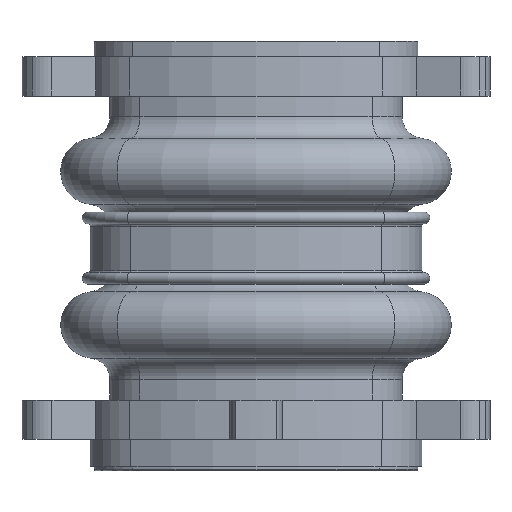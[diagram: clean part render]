
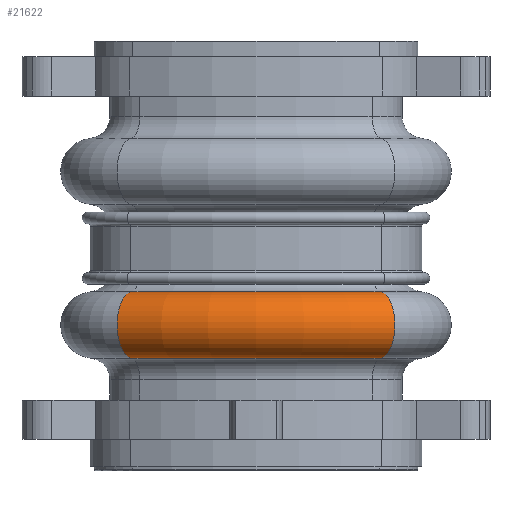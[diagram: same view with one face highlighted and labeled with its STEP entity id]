
A CAD part, left-side view. The second image highlights one B-rep face of the part: STEP entity #21622.
In plain terms, the highlighted toroidal (fillet/blend) face has major radius 34.054 mm and minor radius 4.246 mm.
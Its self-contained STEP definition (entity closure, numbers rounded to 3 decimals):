
#82=TOROIDAL_SURFACE('',#22700,34.054,4.246);
#3060=FACE_OUTER_BOUND('',#4394,.T.);
#4394=EDGE_LOOP('',(#19164,#19165,#19166,#19167));
#8555=CIRCLE('',#22665,4.246);
#8579=CIRCLE('',#22699,34.5);
#8580=CIRCLE('',#22701,4.246);
#8581=CIRCLE('',#22702,34.5);
#10562=VERTEX_POINT('',#38373);
#10566=VERTEX_POINT('',#38382);
#10582=VERTEX_POINT('',#38434);
#10584=VERTEX_POINT('',#38440);
#13470=EDGE_CURVE('',#10566,#10562,#8555,.T.);
#13498=EDGE_CURVE('',#10582,#10562,#8579,.T.);
#13499=EDGE_CURVE('',#10584,#10582,#8580,.T.);
#13500=EDGE_CURVE('',#10584,#10566,#8581,.T.);
#19164=ORIENTED_EDGE('',*,*,#13499,.T.);
#19165=ORIENTED_EDGE('',*,*,#13498,.T.);
#19166=ORIENTED_EDGE('',*,*,#13470,.F.);
#19167=ORIENTED_EDGE('',*,*,#13500,.F.);
#21622=ADVANCED_FACE('',(#3060),#82,.T.);
#22665=AXIS2_PLACEMENT_3D('',#38383,#26153,#26154);
#22699=AXIS2_PLACEMENT_3D('',#38438,#26225,#26226);
#22700=AXIS2_PLACEMENT_3D('',#38439,#26227,#26228);
#22701=AXIS2_PLACEMENT_3D('',#38441,#26229,#26230);
#22702=AXIS2_PLACEMENT_3D('',#38442,#26231,#26232);
#26153=DIRECTION('center_axis',(-0.464,-0.886,0.));
#26154=DIRECTION('ref_axis',(0.093,-0.049,-0.994));
#26225=DIRECTION('center_axis',(0.,0.,-1.));
#26226=DIRECTION('ref_axis',(0.886,0.464,0.));
#26227=DIRECTION('center_axis',(0.,0.,
-1.));
#26228=DIRECTION('ref_axis',(1.,0.,0.));
#26229=DIRECTION('center_axis',(0.464,-0.886,0.));
#26230=DIRECTION('ref_axis',(0.093,0.049,-0.994));
#26231=DIRECTION('center_axis',(0.,0.,-1.));
#26232=DIRECTION('ref_axis',(0.886,0.464,0.));
#38373=CARTESIAN_POINT('',(7.18,-15.998,38.489));
#38382=CARTESIAN_POINT('',(7.18,-15.998,30.044));
#38383=CARTESIAN_POINT('Origin',(6.785,-15.791,34.267));
#38434=CARTESIAN_POINT('',(7.18,15.998,38.489));
#38438=CARTESIAN_POINT('Origin',(-23.386,0.,
38.489));
#38439=CARTESIAN_POINT('Origin',(-23.386,0.,34.267));
#38440=CARTESIAN_POINT('',(7.18,15.998,30.044));
#38441=CARTESIAN_POINT('Origin',(6.785,15.791,34.267));
#38442=CARTESIAN_POINT('Origin',(-23.386,0.,
30.044));
